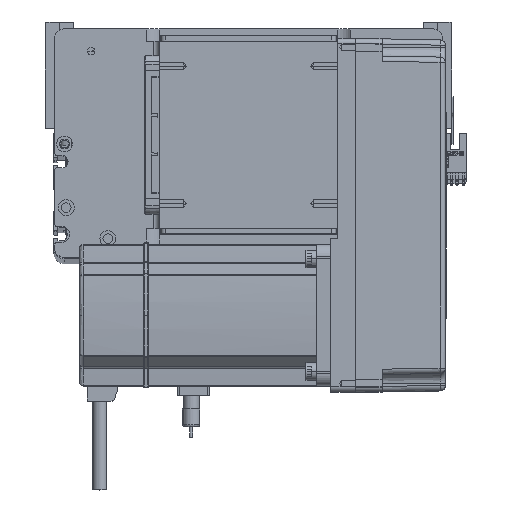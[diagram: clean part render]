
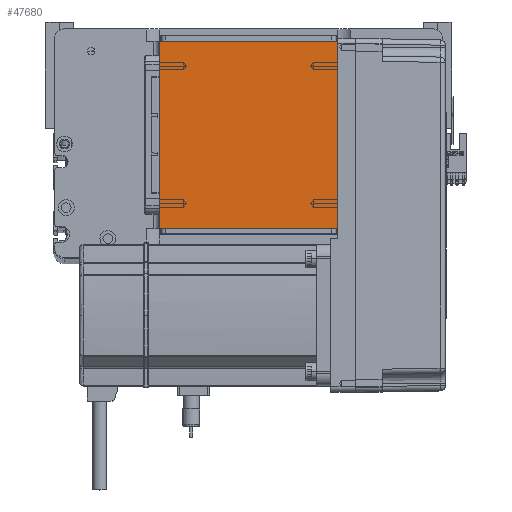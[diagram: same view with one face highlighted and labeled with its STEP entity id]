
A CAD part, top view. The second image highlights one B-rep face of the part: STEP entity #47680.
In plain terms, the highlighted planar face has unit normal (0, 0, 1).
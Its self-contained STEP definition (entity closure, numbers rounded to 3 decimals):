
#3170 = DIRECTION ( 'NONE',  ( 1., 0., 0. ) ) ;
#4845 = ORIENTED_EDGE ( 'NONE', *, *, #45679, .T. ) ;
#6626 = DIRECTION ( 'NONE',  ( 1., 0., 0. ) ) ;
#7222 = CARTESIAN_POINT ( 'NONE',  ( 50.5, 16., 115. ) ) ;
#7336 = CARTESIAN_POINT ( 'NONE',  ( -50.5, 122., 115. ) ) ;
#9059 = VECTOR ( 'NONE', #36912, 1000. ) ;
#12347 = CARTESIAN_POINT ( 'NONE',  ( -50.5, 122., 115. ) ) ;
#12806 = VERTEX_POINT ( 'NONE', #7336 ) ;
#13462 = CARTESIAN_POINT ( 'NONE',  ( 50.5, 122., 115. ) ) ;
#21167 = LINE ( 'NONE', #32239, #35493 ) ;
#21290 = VERTEX_POINT ( 'NONE', #41498 ) ;
#21407 = DIRECTION ( 'NONE',  ( 0., 1., 0. ) ) ;
#21846 = EDGE_CURVE ( 'NONE', #12806, #21290, #42494, .T. ) ;
#22453 = CARTESIAN_POINT ( 'NONE',  ( 0., 0., 115. ) ) ;
#23838 = ORIENTED_EDGE ( 'NONE', *, *, #45402, .T. ) ;
#26652 = LINE ( 'NONE', #44641, #35106 ) ;
#27476 = FACE_OUTER_BOUND ( 'NONE', #31942, .T. ) ;
#28571 = LINE ( 'NONE', #13462, #35729 ) ;
#30632 = EDGE_CURVE ( 'NONE', #21290, #50707, #21167, .T. ) ;
#30671 = PLANE ( 'NONE',  #47940 ) ;
#31942 = EDGE_LOOP ( 'NONE', ( #54130, #41407, #4845, #23838 ) ) ;
#32239 = CARTESIAN_POINT ( 'NONE',  ( -50.5, 16., 115. ) ) ;
#35106 = VECTOR ( 'NONE', #53009, 1000. ) ;
#35493 = VECTOR ( 'NONE', #3170, 1000. ) ;
#35729 = VECTOR ( 'NONE', #21407, 1000. ) ;
#35731 = DIRECTION ( 'NONE',  ( 0., 0., 1. ) ) ;
#36912 = DIRECTION ( 'NONE',  ( 0., -1., 0. ) ) ;
#41407 = ORIENTED_EDGE ( 'NONE', *, *, #30632, .T. ) ;
#41498 = CARTESIAN_POINT ( 'NONE',  ( -50.5, 16., 115. ) ) ;
#42494 = LINE ( 'NONE', #12347, #9059 ) ;
#44641 = CARTESIAN_POINT ( 'NONE',  ( -50.5, 122., 115. ) ) ;
#45402 = EDGE_CURVE ( 'NONE', #46306, #12806, #26652, .T. ) ;
#45679 = EDGE_CURVE ( 'NONE', #50707, #46306, #28571, .T. ) ;
#46306 = VERTEX_POINT ( 'NONE', #51992 ) ;
#47680 = ADVANCED_FACE ( 'NONE', ( #27476 ), #30671, .T. ) ;
#47940 = AXIS2_PLACEMENT_3D ( 'NONE', #22453, #35731, #6626 ) ;
#50707 = VERTEX_POINT ( 'NONE', #7222 ) ;
#51992 = CARTESIAN_POINT ( 'NONE',  ( 50.5, 122., 115. ) ) ;
#53009 = DIRECTION ( 'NONE',  ( -1., 0., 0. ) ) ;
#54130 = ORIENTED_EDGE ( 'NONE', *, *, #21846, .T. ) ;
